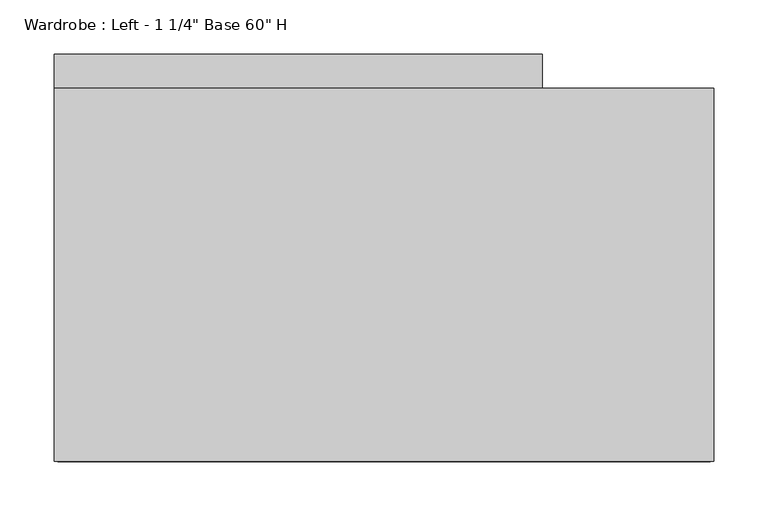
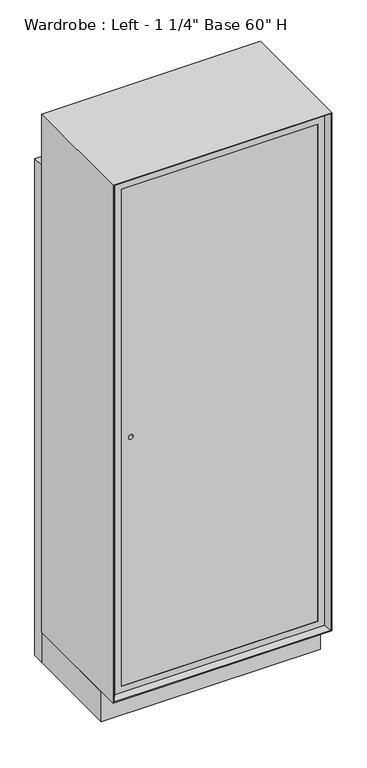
"""IFC4 building model written with IfcOpenShell, lengths in millimetres: furniture geometry."""

from ifc_helpers import new_model, si_unit, point, frame, frame_2d, origin, origin_with_axes, place, context, project, spatial, polyline, circle_curve, trimmed, segment, composite_curve, outline, extrude, faceted_brep, source, transform, mapped, element, save


def furniture_f6369be6(model_context):
    return source(origin(), model_context, "Body", "SolidModel", [
        extrude(outline(polyline([(1598.6125, 292.1), (1598.6125, -292.1), (100.0125, -292.1), (100.0125, 292.1), (1598.6125, 292.1)]), holes=[polyline([(1579.5625, -273.05), (1579.5625, 273.05), (119.0625, 273.05), (119.0625, -273.05), (1579.5625, -273.05)])]), frame((0.0, -363.5375, 0.0), z_axis=(0.0, 1.0, 0.0), x_axis=(0.0, 0.0, 1.0)), (0.0, 0.0, 1.0), 331.7875),
        extrude(outline(polyline([(273.05, -31.75), (273.05, -50.8), (-273.05, -50.8), (-273.05, -31.75), (273.05, -31.75)])), frame((0.0, 0.0, 119.0625), z_axis=(0.0, 0.0, 1.0), x_axis=(1.0, 0.0, 0.0)), (0.0, 0.0, 1.0), 1460.5),
        extrude(outline(polyline([(1579.5625, 273.05), (1579.5625, -273.05), (119.0625, -273.05), (119.0625, 273.05), (1579.5625, 273.05)]), holes=[composite_curve([segment(trimmed(circle_curve(frame_2d((842.9625, -247.65)), 6.35), [point((842.9625, -254.0))], [point((842.9625, -241.3))], True, "CARTESIAN"), True, "CONTINUOUS"), segment(trimmed(circle_curve(frame_2d((842.9625, -247.65)), 6.35), [point((842.9625, -241.3))], [point((842.9625, -254.0))], True, "CARTESIAN"), True, "CONTINUOUS")], self_intersect=False)]), frame((0.0, -363.5375, 0.0), z_axis=(0.0, 1.0, 0.0), x_axis=(0.0, 0.0, 1.0)), (0.0, 0.0, 1.0), 19.05),
        faceted_brep([(292.1, -363.5375, 1598.6125), (292.1, -31.75, 1598.6125), (292.1, -31.75, 100.0125), (292.1, -363.5375, 100.0125), (301.625, -376.2375, 1608.1375), (301.625, -376.2375, 90.4875), (304.8, -31.75, 1611.3125), (304.8, -376.2375, 1611.3125), (304.8, -376.2375, 87.3125), (304.8, -31.75, 87.3125), (-292.1, -31.75, 100.0125), (-292.1, -363.5375, 100.0125), (-301.625, -376.2375, 90.4875), (-304.8, -376.2375, 87.3125), (-304.8, -31.75, 87.3125), (-292.1, -31.75, 1598.6125), (-292.1, -363.5375, 1598.6125), (-301.625, -376.2375, 1608.1375), (-304.8, -376.2375, 1611.3125), (-304.8, -31.75, 1611.3125)], [[[0, 1, 2, 3]], [[4, 0, 3, 5]], [[6, 7, 8, 9]], [[3, 2, 10, 11]], [[5, 3, 11, 12]], [[9, 8, 13, 14]], [[11, 10, 15, 16]], [[12, 11, 16, 17]], [[14, 13, 18, 19]], [[9, 14, 19, 6], [1, 15, 10, 2]], [[16, 15, 1, 0]], [[17, 16, 0, 4]], [[7, 18, 13, 8], [5, 12, 17, 4]], [[19, 18, 7, 6]]]),
        extrude(outline(polyline([(-304.8, 0.0), (146.2, 0.0), (146.2, -31.75), (-304.8, -31.75), (-304.8, 0.0)])), origin_with_axes(), (0.0, 0.0, 1.0), 1460.5),
        extrude(outline(polyline([(304.8, -31.75), (304.8, -320.675), (-304.8, -320.675), (-304.8, -31.75), (304.8, -31.75)])), origin_with_axes(), (0.0, 0.0, 1.0), 87.3125),
    ])


if __name__ == "__main__":
    model = new_model("IFC4")
    model_context = context("Model", 3, world=origin())
    ifc_project = project(units=[si_unit("LENGTHUNIT", "METRE", prefix="MILLI")], contexts=[model_context])
    site = spatial("IfcSite", under=ifc_project)
    building = spatial("IfcBuilding", under=site)
    placement = place(None, origin())
    furniture_shape = furniture_f6369be6(model_context)
    element("IfcFurniture", 1, ObjectType="Wardrobe : Left - 1 1/4\" Base 60\" H", at=placement, inside=building, context=model_context, shape_type="MappedRepresentation", body=[
        mapped(furniture_shape, transform((0.0, 0.0, 0.0), x_axis=(1.0, 0.0, 0.0), y_axis=(0.0, 1.0, 0.0), z_axis=(0.0, 0.0, 1.0))),
    ])
    save(model, "model.ifc")
